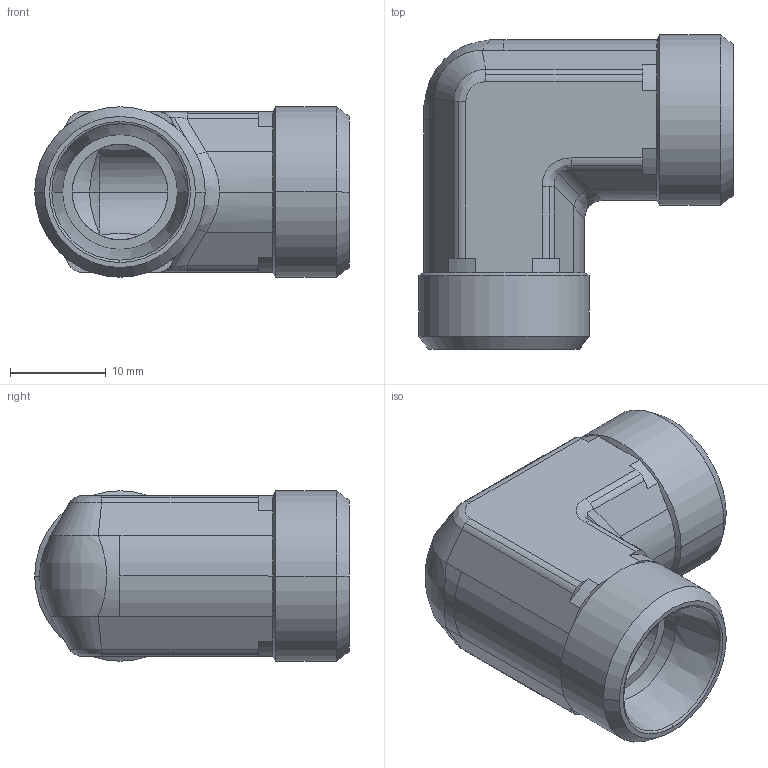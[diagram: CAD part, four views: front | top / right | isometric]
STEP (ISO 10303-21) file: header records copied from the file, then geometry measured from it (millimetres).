
FILE_DESCRIPTION((''),'2;1');
FILE_NAME('103807.stp','2007-10-31T11:53:47',(''),(''),'AutoCAD STEP 2000i','AutoCAD 2000i',', , ');
FILE_SCHEMA(('CONFIG_CONTROL_DESIGN'));
Length unit declared in the file: millimetre
Products named in the file (2): 103807.0; 3090#0
Assembly tree (1 placements, depth 2):
  103807.0
    3090#0
Bounding box: 32.92 x 32.92 x 17.85 mm (x, y, z)
Volume: 6879.5 mm3; surface area: 4482.6 mm2
Topology: 1 solids, 1 shells, 120 faces, 282 edges, 166 vertices
Faces by surface type: cylinder 52, plane 34, cone 20, bspline 14
Entity records: 4291 total; most frequent: CARTESIAN_POINT 1410, DIRECTION 622, ORIENTED_EDGE 564, EDGE_CURVE 282, AXIS2_PLACEMENT_3D 250, VERTEX_POINT 166, CIRCLE 124, EDGE_LOOP 124
